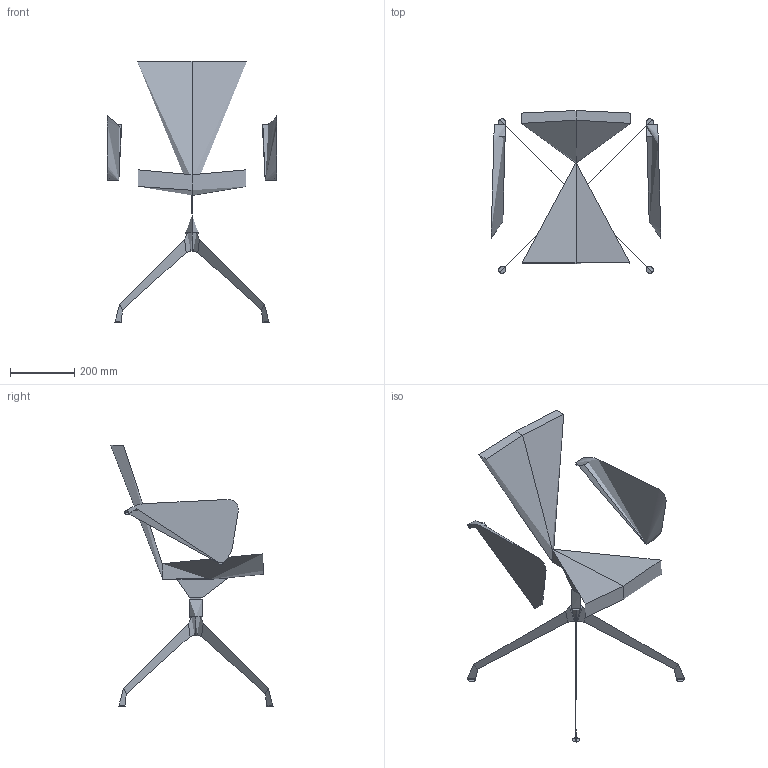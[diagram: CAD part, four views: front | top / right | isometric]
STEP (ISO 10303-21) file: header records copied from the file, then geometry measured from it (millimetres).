
FILE_DESCRIPTION(/* description */ (''),/* implementation_level */ '2;1');
FILE_NAME(/* name */ 'FLEXIC~1',/* time_stamp */ '2015-11-12T15:25:50+01:00',/* author */ (''),/* organization */ (''),/* preprocessor_version */ 'ST-DEVELOPER v15',/* originating_system */ '',/* authorisation */ '');
FILE_SCHEMA (('CONFIG_CONTROL_DESIGN'));
Length unit declared in the file: millimetre
Products named in the file (1): Document
Bounding box: 529.02 x 506.01 x 815.04 mm (x, y, z)
Volume: 16004873.7 mm3; surface area: 1064677.4 mm2
Topology: 3 solids, 8 shells, 124 faces, 278 edges, 164 vertices
Faces by surface type: bspline 102, plane 22
Entity records: 16558 total; most frequent: CARTESIAN_POINT 14876, ORIENTED_EDGE 504, EDGE_CURVE 261, VERTEX_POINT 162, EDGE_LOOP 142, ADVANCED_FACE 124, FACE_OUTER_BOUND 124, B_SPLINE_CURVE_WITH_KNOTS 110
